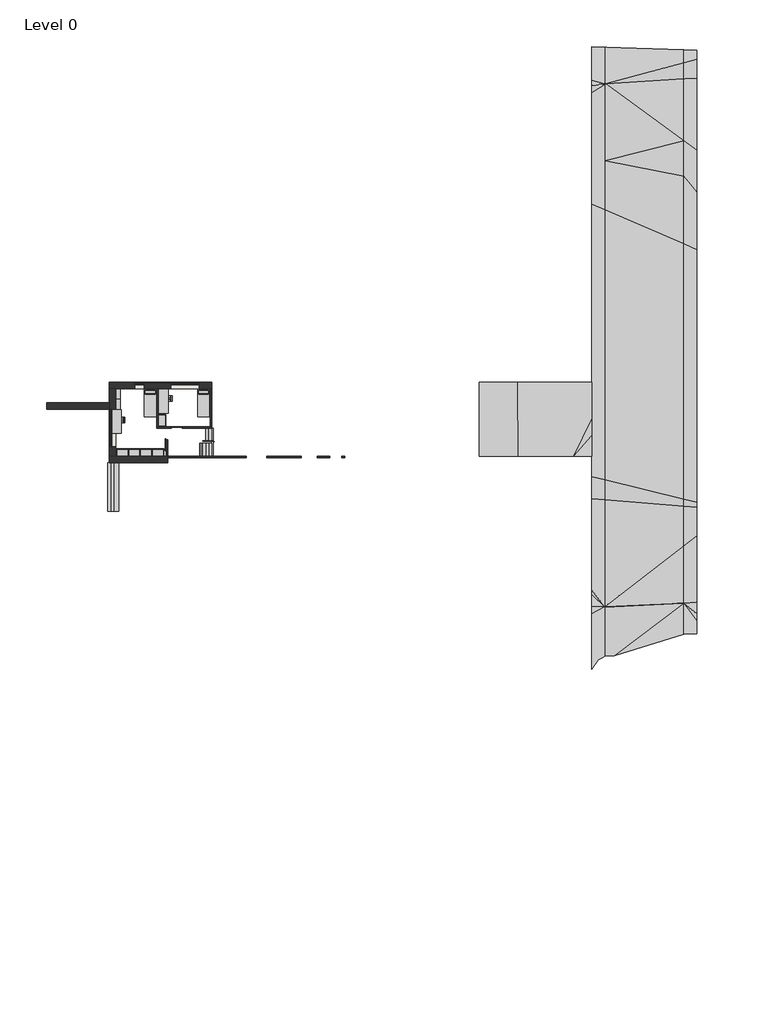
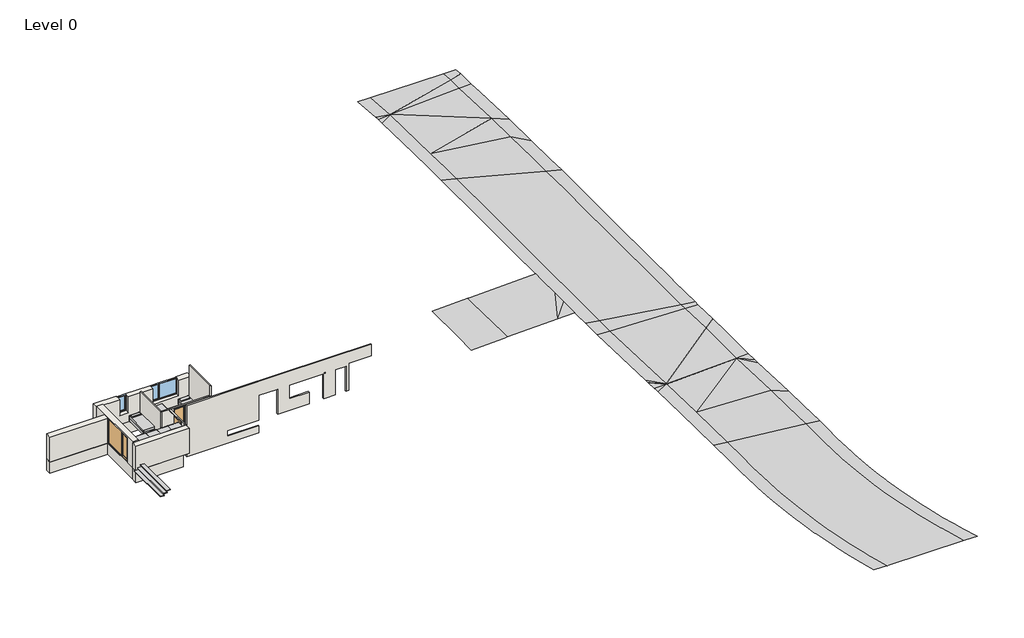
# One storey, incomplete: 14 walls, 13 furniture elements, 3 doors, 3 proxies, 3 stair flights, 2 windows, 1 railing.
"""IFC4 building model written with IfcOpenShell, lengths in millimetres."""

from ifc_helpers import new_model, si_unit, frame, origin, place, context, project, spatial, polyline, outline, extrude, faceted_brep, triangles, transform, mapped, element, save
from components import ext_door_window_assembly_glass_2880x2200_mm_93a1fc79, int_single_flush_900x2200_mm_8e8544e1, int_sliding_door_on_wall_m_09x22_47a3ad10, furniture_56f83323, furniture_1800_x_700mm_2eab36f4, furniture_750_x_300_x_700mm_660817c4, bed_standard_900_x_21005mm_af0b1266, tall_cabinet_double_door_900mm_d8c8d432, railing_900mm_round_profiles_b70d091b, stair_flight_e6f8e67d, single_light_720x1400_mm_b30d6d94, window_assembly_individual_2160x1400_mm_e8ab2868

model = new_model("IFC4")

# Units and contexts
model_context = context("Model", 3, world=origin())
ifc_project = project(units=[si_unit("LENGTHUNIT", "METRE", prefix="MILLI")], contexts=[model_context])

# Site, building, storey
site = spatial("IfcSite", under=ifc_project)
building = spatial("IfcBuilding", under=site)
storey = spatial("IfcBuildingStorey", under=building, Name="Level 0", Elevation=-600.0)

# Proxies
placement = place(None, origin())
element("IfcBuildingElementProxy", 1, Name="Building Element Proxy", at=placement, inside=storey, context=model_context, shape_type="Tessellation", body=[
    triangles([(36800.0002808, -19240.0000305, 669.4712729), (36841.6116943, -21308.3412231, 675.8446484), (36847.346228, -21593.3587097, 676.5660433), (36919.8743591, -22793.7342773, 680.6525671), (36989.3073303, -23942.9083191, 683.5437424), (37113.2113953, -25170.6636108, 687.7205223), (37225.6556946, -26284.8467651, 691.036381), (37383.4948975, -27398.3625183, 695.3462923), (37556.0052979, -28615.3835815, 700.9963835), (37597.8329773, -28843.8975403, 702.2646927), (37970.4497681, -30879.5291016, 711.1172773), (37979.8236145, -30930.749231, 711.3854296), (38296.7438049, -32339.5469604, 720.0681845), (38496.4269653, -33227.195105, 724.1432264), (38660.0983704, -33838.7438232, 727.5312464), (38909.4250122, -34770.3450989, 732.5113203), (39956.7192261, -34806.9172852, 755.7694937), (39678.7827026, -33782.3309875, 750.209586), (39510.699939, -33162.7083435, 746.7268044), (39338.5244019, -32407.4521179, 743.2089231), (38989.7968506, -30877.7571167, 733.6789816), (38974.3024475, -30794.2157043, 733.2371481), (38625.6004761, -28914.137439, 724.9604731), (38562.4206116, -28573.481488, 723.0515779), (38380.5410156, -27307.0122803, 717.1201086), (38229.2758301, -26253.7068054, 713.0003019), (38125.4612366, -25238.254834, 709.948962), (37990.922937, -23922.2839966, 705.4341213), (37936.2030212, -23028.2827515, 703.1695793), (37847.7502808, -21583.0872437, 698.225041), (37843.152887, -21357.4986877, 697.6528376), (37799.999707, -19240.0000305, 691.1160273), (37799.999707, -19155.8237732, 690.8932938), (37799.999707, -17617.4851135, 687.6261967), (37799.999707, -15521.5711853, 675.1737591), (37799.999707, -11075.4983826, 613.4258566), (37799.999707, -6821.2743347, 501.0448165), (37799.999707, -6796.3746918, 500.0000038), (37799.999707, -6782.3900803, 500.0000038), (37799.999707, -6774.6248566, 500.0000038), (37799.999707, 1369.7200275, 206.3798447), (37799.999707, 2888.0641228, 205.5976976), (37799.999707, 4305.7848541, 198.0800969), (37799.999707, 6061.8363876, 198.0800969), (37799.999707, 7522.4908356, 189.7929574), (37799.999707, 9341.4571335, 189.7929574), (37799.999707, 11245.3380157, 181.6761563), (37799.999707, 12936.2057373, 170.7920823), (37799.999707, 18322.8629883, 214.1072618), (37799.999707, 23493.9543274, 187.5491808), (37799.999707, 25115.9506714, 163.3837227), (37799.999707, 27228.5217224, 127.2223308), (37799.999707, 33045.5666565, 0.0), (37799.999707, 33058.8658447, 0.0), (37799.999707, 33084.5340454, 0.0), (37799.999707, 33109.820874, -3.0015763), (37799.999707, 35911.4312622, -215.0441232), (36800.0002808, 35946.3523865, -238.3495866), (36800.0002808, 33373.8745239, -43.6492116), (36800.0002808, 33016.9428223, -1.2834803), (36800.0002808, 32989.4235718, 0.0), (36800.0002808, 32632.8569641, 0.0), (36800.0002808, 32439.4827209, 0.0), (36800.0002808, 27954.2634705, 98.0944394), (36800.0002808, 25676.6234253, 137.0813856), (36800.0002808, 23927.8883057, 163.1350824), (36800.0002808, 18352.7413971, 191.7683274), (36800.0002808, 12545.184256, 145.0686252), (36800.0002808, 11108.9823853, 154.3134007), (36800.0002808, 9491.8502792, 161.2077291), (36800.0002808, 7505.268631, 161.2077291), (36800.0002808, 6264.6071503, 168.2467072), (36800.0002808, 4335.0359756, 168.2467072), (36800.0002808, 3130.8420364, 174.632055), (36800.0002808, 1452.796788, 175.4964827), (36800.0002808, -5525.9638641, 427.0949335), (36800.0002808, -5889.4184235, 428.2519486), (36800.0002808, -6801.134285, 500.0000038), (36800.0002808, -7159.5135727, 500.0000038), (36800.0002808, -7318.6096756, 500.0000038), (36800.0002808, -10590.5210083, 586.4319374), (36800.0002808, -15347.0574188, 652.491568), (36800.0002808, -17589.3252045, 665.8135019), (36800.0002808, -18948.8236176, 668.7008257), (47353.9886353, -35065.2364014, 920.047257), (46948.6412842, -33815.4452454, 911.7909296), (46829.048584, -33386.3621338, 909.3915121), (46689.7640625, -32886.6065918, 906.4997555), (46381.5875244, -31780.8996643, 898.3694378), (46010.5543579, -30196.228949, 888.2806641), (45900.091333, -29724.4298401, 885.6971008), (45839.6717651, -29407.1608337, 884.2656475), (45504.9805664, -27649.6262512, 874.2256353), (45360.2080078, -26667.5303833, 869.5438717), (45219.3375366, -25711.9259216, 865.7265902), (45196.9575073, -25560.1189087, 865.0557009), (45104.8887085, -24682.6701416, 861.9936785), (44976.552356, -23459.5610779, 856.6501093), (44866.1776978, -21702.2032288, 850.5764248), (44844.1557861, -21351.6269531, 849.1722227), (44828.6637085, -20610.7605469, 846.8766506), (44800.0003418, -19240.0000305, 843.3418373), (44800.0003418, -17814.6009888, 840.3145512), (44800.0003418, -16743.1710388, 833.9488787), (44800.0003418, -14470.3400024, 802.3834362), (44800.0003418, -12295.5808868, 744.9342539), (44800.0003418, -7850.5179062, 558.4124994), (44800.0003418, -7315.7953125, 554.9484667), (44800.0003418, -6457.6145554, 501.8563222), (44800.0003418, -6440.0976013, 501.6879458), (44800.0003418, -6407.8513138, 500.0000038), (44800.0003418, -6174.5248581, 500.0000038), (44800.0003418, -5738.4939148, 500.0000038), (44800.0003418, -5058.3575226, 500.0000038), (44800.0003418, -3180.1678047, 500.0000038), (44800.0003418, -1359.7290676, 500.0000038), (44800.0003418, 788.1837215, 422.5633787), (44800.0003418, 1188.6174191, 422.357105), (44800.0003418, 4101.0258408, 406.9137889), (44800.0003418, 4642.4416306, 406.9137889), (44800.0003418, 7643.0485931, 389.8896463), (44800.0003418, 8288.7045319, 389.8896463), (44800.0003418, 12199.8251038, 373.2153371), (44800.0003418, 15673.3572693, 350.8563457), (44800.0003418, 18113.7176147, 370.4797482), (44800.0003418, 20456.4164795, 358.4479245), (44800.0003418, 21191.2437195, 347.5000826), (44800.0003418, 22148.3178589, 331.1175797), (44800.0003418, 24843.7672852, 272.1664541), (44800.0003418, 28019.1362549, 245.6447627), (44800.0003418, 32201.0321594, 59.4666146), (44800.0003418, 33509.6150757, 0.0), (44800.0003418, 33916.8762634, 0.0), (44800.0003418, 34115.1083496, 0.0), (44800.0003418, 34981.1810669, 0.0), (44800.0003418, 35666.9857178, -51.9058252), (43800.0009155, 35701.906842, -75.2112976), (43800.0009155, 34708.179126, 0.0), (43800.0009155, 33472.3033997, 0.0), (43800.0009155, 28751.3148193, 210.1785227), (43800.0009155, 26034.4062378, 232.8709966), (43800.0009155, 22874.0619324, 301.9896883), (43800.0009155, 21751.9164734, 321.1977273), (43800.0009155, 20890.3504578, 334.0338261), (43800.0009155, 18143.5948608, 348.1408138), (43800.0009155, 15282.3346252, 325.1328795), (43800.0009155, 12063.4694733, 345.8526177), (43800.0009155, 8439.0976776, 361.3043999), (43800.0009155, 7625.8258072, 361.3043999), (43800.0009155, 4845.2123932, 377.0803991), (43800.0009155, 4130.2769623, 377.0803991), (43800.0009155, 1431.3954781, 391.3914805), (43800.0009155, 871.2603367, 391.6800167), (43800.0009155, -2133.2856297, 500.0000038), (43800.0009155, -3694.7709869, 500.0000038), (43800.0009155, -6506.7423706, 500.0000038), (43800.0009155, -11513.5379242, 710.0929213), (43800.0009155, -13985.3626282, 775.3894444), (43800.0009155, -16568.6561096, 811.2667603), (43800.0009155, -17786.4422424, 818.5019291), (43800.0009155, -19240.0000305, 821.5890226), (43825.7946899, -20403.1662415, 824.620451), (43850.6396851, -21523.4722778, 828.1224174), (43859.2531128, -21652.7829895, 828.6510189), (44002.4490234, -23802.4541016, 836.2578947), (44073.9516357, -24444.7497803, 839.1529942), (44207.4876709, -25644.3626038, 843.5069435), (44255.1405762, -26072.4667053, 844.8785168), (44362.5479736, -26758.9364319, 847.7568295), (44608.2120483, -28329.0452454, 855.5539553), (44812.050769, -29336.9302368, 861.5731373), (45003.1507324, -30281.8446533, 866.0824551), (45060.970459, -30567.7527832, 867.7008156), (45612.5274902, -32784.1895874, 882.5333405), (45622.2617798, -32817.0271179, 882.7876854), (45807.8318481, -33442.9144958, 886.6568533), (46261.7901855, -34973.9977844, 895.823881), (46280.3564941, -35027.7433411, 896.2040903), (43831.9012939, 33474.3590881, 0.0), (36828.893866, 33008.3945068, 0.0), (44770.7742188, -6429.9511276, 500.0000038), (43831.6175903, -6505.2157196, 500.0000038), (37770.0108398, -6797.8222778, 500.0000038)], [[2, 3, 31], [31, 32, 2], [1, 2, 32], [30, 3, 4], [25, 8, 9], [26, 7, 8], [28, 5, 6], [7, 27, 6], [4, 5, 29], [24, 9, 10], [1, 32, 33], [35, 82, 83], [80, 37, 183], [81, 82, 36], [83, 84, 34], [81, 36, 80], [35, 83, 34], [79, 183, 78], [79, 80, 183], [78, 183, 77], [36, 82, 35], [34, 84, 33], [84, 1, 33], [13, 14, 20], [12, 22, 11], [13, 21, 12], [19, 14, 15], [16, 17, 18], [18, 19, 15], [21, 13, 20], [20, 14, 19], [16, 18, 15], [22, 12, 21], [30, 4, 29], [29, 5, 28], [36, 37, 80], [31, 3, 30], [24, 10, 23], [22, 23, 11], [27, 7, 26], [26, 8, 25], [25, 9, 24], [6, 27, 28], [10, 11, 23], [183, 37, 38], [69, 47, 68], [67, 68, 48], [67, 50, 66], [47, 69, 70], [41, 75, 76], [42, 74, 75], [45, 71, 72], [46, 70, 71], [73, 44, 72], [74, 43, 73], [180, 61, 62], [180, 60, 61], [180, 59, 60], [58, 59, 57], [180, 62, 53], [64, 53, 63], [65, 52, 64], [56, 57, 59], [56, 180, 55], [56, 59, 180], [51, 65, 66], [63, 53, 62], [76, 77, 40], [40, 77, 183], [42, 43, 74], [75, 41, 42], [44, 73, 43], [40, 41, 76], [154, 116, 153], [152, 153, 118], [119, 151, 152], [154, 155, 115], [51, 52, 65], [50, 51, 66], [54, 55, 180], [53, 54, 180], [52, 53, 64], [46, 71, 45], [45, 72, 44], [49, 67, 48], [48, 68, 47], [47, 70, 46], [50, 67, 49], [39, 40, 183], [183, 38, 39], [100, 163, 164], [101, 162, 163], [163, 100, 101], [165, 98, 164], [169, 94, 168], [170, 93, 169], [97, 166, 167], [168, 95, 167], [165, 166, 98], [170, 171, 92], [162, 101, 102], [104, 159, 160], [105, 158, 159], [107, 156, 157], [158, 106, 157], [156, 107, 108], [160, 161, 103], [160, 103, 104], [104, 105, 159], [157, 106, 107], [158, 105, 106], [103, 161, 102], [161, 162, 102], [88, 175, 176], [89, 173, 174], [175, 88, 174], [176, 177, 86], [85, 86, 177], [86, 87, 176], [89, 174, 88], [88, 176, 87], [85, 177, 178], [173, 89, 90], [96, 97, 167], [167, 95, 96], [97, 98, 166], [99, 100, 164], [164, 98, 99], [172, 91, 171], [92, 171, 91], [90, 91, 172], [95, 168, 94], [94, 169, 93], [93, 170, 92], [172, 173, 90], [116, 117, 153], [182, 156, 108], [150, 121, 149], [149, 122, 148], [114, 115, 155], [156, 114, 155], [116, 154, 115], [112, 182, 181], [118, 153, 117], [151, 119, 120], [152, 118, 119], [182, 113, 156], [108, 181, 182], [147, 148, 123], [146, 147, 123], [145, 146, 124], [143, 144, 127], [142, 143, 128], [145, 126, 144], [140, 141, 130], [179, 139, 131], [137, 138, 135], [179, 138, 139], [179, 134, 138], [141, 142, 129], [139, 140, 131], [120, 150, 151], [113, 182, 112], [114, 156, 113], [181, 111, 112], [111, 181, 110], [146, 123, 124], [122, 123, 148], [121, 122, 149], [181, 109, 110], [124, 125, 145], [127, 144, 126], [128, 143, 127], [141, 129, 130], [128, 129, 142], [131, 140, 130], [179, 132, 133], [179, 133, 134], [135, 136, 137], [135, 138, 134], [131, 132, 179], [145, 125, 126], [120, 121, 150], [108, 109, 181]], closed=False),
])
element("IfcBuildingElementProxy", 2, Name="Building Element Proxy", at=placement, inside=storey, context=model_context, shape_type="Tessellation", body=[
    triangles([(37799.999707, -19240.0000305, 691.1160273), (37842.9970825, -21357.4917114, 697.6494221), (37847.4061157, -21574.6040405, 698.1998245), (37936.0518677, -23028.2478699, 703.1662365), (37989.541626, -23905.3594482, 705.383761), (38125.3124084, -25238.2455322, 709.9456919), (38226.1760193, -26228.4246277, 712.9130253), (38380.5038086, -27307.0169312, 717.1192366), (38556.9186218, -28539.9672546, 722.8794954), (38626.0632385, -28914.1699951, 724.9706469), (38973.4792419, -30794.2854675, 733.2190533), (38981.2206299, -30836.1805847, 733.43997), (39338.0779175, -32407.4218872, 743.19904), (39498.3890625, -33113.2741516, 746.4734041), (39679.1873291, -33782.3077332, 750.218597), (39956.068103, -34806.8940308, 755.7550323), (46280.3564941, -35027.7433411, 896.2040903), (46261.7901855, -34973.9977844, 895.823881), (45807.8318481, -33442.9144958, 886.6568533), (45622.2617798, -32817.0271179, 882.7876854), (45612.5274902, -32784.1895874, 882.5333405), (45060.970459, -30567.7527832, 867.7008156), (45003.1507324, -30281.8446533, 866.0824551), (44812.050769, -29336.9302368, 861.5731373), (44608.2120483, -28329.0452454, 855.5539553), (44362.5479736, -26758.9364319, 847.7568295), (44255.1405762, -26072.4667053, 844.8785168), (44207.4876709, -25644.3626038, 843.5069435), (44073.9516357, -24444.7497803, 839.1529942), (44002.4490234, -23802.4541016, 836.2578947), (43859.2531128, -21652.7829895, 828.6510189), (43850.6396851, -21523.4722778, 828.1224174), (43825.7946899, -20403.1662415, 824.620451), (43800.0009155, -19240.0000305, 821.5890226), (43800.0009155, -17786.4422424, 818.5019291), (43800.0009155, -16568.6561096, 811.2667603), (43800.0009155, -13985.3626282, 775.3894444), (43800.0009155, -11513.5379242, 710.0929213), (43800.0009155, -6506.7423706, 500.0000038), (43800.0009155, -3694.7709869, 500.0000038), (43800.0009155, -2133.2856297, 500.0000038), (43800.0009155, 871.2603367, 391.6800167), (43800.0009155, 1431.3954781, 391.3914805), (43800.0009155, 4130.2769623, 377.0803991), (43800.0009155, 4845.2123932, 377.0803991), (43800.0009155, 7625.8258072, 361.3043999), (43800.0009155, 8439.0976776, 361.3043999), (43800.0009155, 12063.4694733, 345.8526177), (43800.0009155, 15282.3346252, 325.1328795), (43800.0009155, 18143.5948608, 348.1408138), (43800.0009155, 20890.3504578, 334.0338261), (43800.0009155, 21751.9164734, 321.1977273), (43800.0009155, 22874.0619324, 301.9896883), (43800.0009155, 26034.4062378, 232.8709966), (43800.0009155, 28751.3148193, 210.1785227), (43800.0009155, 33472.3033997, 0.0), (43800.0009155, 34708.179126, 0.0), (43800.0009155, 35701.906842, -75.2112976), (37799.999707, 35911.4312622, -215.0441232), (37799.999707, 33109.820874, -3.0015763), (37799.999707, 33084.5340454, 0.0), (37799.999707, 33058.8658447, 0.0), (37799.999707, 33045.5666565, 0.0), (37799.999707, 27228.5217224, 127.2223308), (37799.999707, 25115.9506714, 163.3837227), (37799.999707, 23493.9543274, 187.5491808), (37799.999707, 18322.8629883, 214.1072618), (37799.999707, 12936.2057373, 170.7920823), (37799.999707, 11245.3380157, 181.6761563), (37799.999707, 9341.4571335, 189.7929574), (37799.999707, 7522.4908356, 189.7929574), (37799.999707, 6061.8363876, 198.0800969), (37799.999707, 4305.7848541, 198.0800969), (37799.999707, 2888.0641228, 205.5976976), (37799.999707, 1369.7200275, 206.3798447), (37799.999707, -6774.6248566, 500.0000038), (37799.999707, -6782.3900803, 500.0000038), (37799.999707, -6796.3746918, 500.0000038), (37799.999707, -6821.2743347, 501.0448165), (37799.999707, -11075.4983826, 613.4258566), (37799.999707, -15521.5711853, 675.1737591), (37799.999707, -17617.4851135, 687.6261967), (37799.999707, -19155.8237732, 690.8932938), (37873.8440369, 33090.3220642, 0.0)], [[33, 1, 2], [83, 1, 34], [3, 32, 2], [3, 4, 31], [35, 82, 83], [80, 81, 37], [82, 36, 81], [39, 79, 80], [30, 4, 5], [24, 11, 12], [12, 13, 23], [14, 22, 13], [21, 14, 15], [28, 6, 7], [25, 9, 10], [10, 11, 25], [9, 26, 8], [27, 7, 8], [30, 5, 6], [78, 79, 39], [55, 84, 64], [51, 66, 67], [54, 64, 65], [63, 64, 84], [84, 60, 61], [84, 61, 62], [84, 62, 63], [60, 84, 59], [67, 68, 49], [76, 77, 39], [41, 75, 76], [74, 75, 43], [39, 77, 78], [48, 69, 70], [47, 70, 71], [72, 73, 45], [44, 73, 74], [72, 46, 71], [69, 48, 68], [53, 65, 66], [57, 59, 84], [16, 21, 15], [32, 3, 31], [29, 30, 6], [28, 29, 6], [4, 30, 31], [37, 81, 36], [35, 36, 82], [34, 1, 33], [37, 38, 80], [33, 2, 32], [20, 21, 16], [18, 19, 16], [17, 18, 16], [20, 16, 19], [26, 27, 8], [25, 26, 9], [23, 24, 12], [22, 23, 13], [25, 11, 24], [21, 22, 14], [28, 7, 27], [74, 43, 44], [76, 40, 41], [41, 42, 75], [40, 76, 39], [46, 72, 45], [70, 47, 48], [46, 47, 71], [45, 73, 44], [48, 49, 68], [66, 51, 52], [50, 51, 67], [53, 66, 52], [64, 54, 55], [84, 55, 56], [57, 58, 59], [57, 84, 56], [53, 54, 65], [49, 50, 67], [38, 39, 80], [43, 75, 42], [35, 83, 34]], closed=False),
])
element("IfcBuildingElementProxy", 3, Name="Building Element Proxy", at=placement, inside=storey, context=model_context, shape_type="Tessellation", body=[
    triangles([(28199.9996338, 10320.0003113, -109.999999), (28199.9996338, 6685.1878738, -109.999999), (28199.9996338, 4680.0000938, -109.999999), (30916.594281, 4680.0000938, -9.0610056), (31160.4561401, 4680.0000938, 0.0), (35399.9996887, 4680.0000938, 126.4799706), (36800.0002808, 4680.0000938, 168.2467072), (36800.0002808, 6264.6071503, 168.2467072), (36800.0002808, 7505.268631, 161.2077291), (36800.0002808, 9491.8502792, 161.2077291), (36800.0002808, 10320.0003113, 157.6770761), (31293.4410461, 10320.0003113, 3.8013986), (31160.4561401, 10320.0003113, 0.0), (31160.4561401, 7408.14142, 0.0)], [[2, 3, 4], [14, 4, 5], [1, 2, 14], [13, 14, 12], [14, 13, 1], [2, 4, 14], [5, 6, 14], [6, 7, 8], [6, 8, 9], [14, 10, 12], [14, 9, 10], [10, 11, 12], [9, 14, 6]], closed=False),
])

# Doors
ext_door_window_assembly_glass_2880x2200_mm_shape = ext_door_window_assembly_glass_2880x2200_mm_93a1fc79(model_context)
element("IfcDoor", 4, ObjectType="Ext. Door Window Assembly - Glass : 2880x2200 mm", at=placement, inside=storey, context=model_context, shape_type="MappedRepresentation", body=[
    mapped(ext_door_window_assembly_glass_2880x2200_mm_shape, transform((240.0, 6840.0, -600.0), x_axis=(0.0, -1.0, 0.0), y_axis=(1.0, 0.0, 0.0), z_axis=(0.0, 0.0, 1.0))),
])
int_single_flush_900x2200_mm_shape = int_single_flush_900x2200_mm_8e8544e1(model_context)
element("IfcDoor", 5, ObjectType="Int. Single-Flush : 900x2200 mm", at=placement, inside=storey, context=model_context, shape_type="MappedRepresentation", body=[
    mapped(int_single_flush_900x2200_mm_shape, transform((5130.0, 6900.0, -600.0), x_axis=(-1.0, 0.0, 0.0), y_axis=(0.0, -1.0, 0.0), z_axis=(0.0, 0.0, 1.0))),
])
int_sliding_door_on_wall_m_09x22_shape = int_sliding_door_on_wall_m_09x22_47a3ad10(model_context)
element("IfcDoor", 6, ObjectType="Int. Sliding Door on wall : M 09x22", at=placement, inside=storey, context=model_context, shape_type="MappedRepresentation", body=[
    mapped(int_sliding_door_on_wall_m_09x22_shape, transform((4430.0, 6420.0, -600.0), x_axis=(0.0, 1.0, 0.0), y_axis=(-1.0, 0.0, 0.0), z_axis=(0.0, 0.0, 1.0))),
])

# Furniture
furniture_shape = furniture_56f83323(model_context)
element("IfcFurniture", 7, ObjectType="Chair - Allround : Dining Chair Trendy", at=placement, inside=storey, context=model_context, shape_type="MappedRepresentation", body=[
    mapped(furniture_shape, transform((873.7758359, 7450.0, -600.0), x_axis=(0.0, -1.0, 0.0), y_axis=(1.0, 0.0, 0.0), z_axis=(0.0, 0.0, 1.0))),
])
element("IfcFurniture", 8, ObjectType="Chair - Allround : Dining Chair Trendy", at=placement, inside=storey, context=model_context, shape_type="MappedRepresentation", body=[
    mapped(furniture_shape, transform((4480.0, 9090.0, -600.0), x_axis=(0.0, -1.0, 0.0), y_axis=(1.0, 0.0, 0.0), z_axis=(0.0, 0.0, 1.0))),
])
furniture_1800_x_700mm_shape = furniture_1800_x_700mm_2eab36f4(model_context)
element("IfcFurniture", 9, ObjectType="Table - Allround : 1800 x 700mm", at=placement, inside=storey, context=model_context, shape_type="MappedRepresentation", body=[
    mapped(furniture_1800_x_700mm_shape, transform((565.0, 7330.0, -600.0), x_axis=(0.0, 1.0, 0.0), y_axis=(-1.0, 0.0, 0.0), z_axis=(0.0, 0.0, 1.0))),
])
element("IfcFurniture", 10, ObjectType="Table - Allround : 1800 x 700mm", at=placement, inside=storey, context=model_context, shape_type="MappedRepresentation", body=[
    mapped(furniture_1800_x_700mm_shape, transform((4120.0, 8890.0, -600.0), x_axis=(0.0, 1.0, 0.0), y_axis=(-1.0, 0.0, 0.0), z_axis=(0.0, 0.0, 1.0))),
])
furniture_750_x_300_x_700mm_shape = furniture_750_x_300_x_700mm_660817c4(model_context)
element("IfcFurniture", 11, ObjectType="Shelving (Floor) - Allround : 750 x 300 x 700mm", at=placement, inside=storey, context=model_context, shape_type="MappedRepresentation", body=[
    mapped(furniture_750_x_300_x_700mm_shape, transform((984.8, 9415.0, -600.0), x_axis=(0.0, -1.0, 0.0), y_axis=(1.0, 0.0, 0.0), z_axis=(0.0, 0.0, 1.0))),
])
element("IfcFurniture", 12, ObjectType="Shelving (Floor) - Allround : 750 x 300 x 700mm", at=placement, inside=storey, context=model_context, shape_type="MappedRepresentation", body=[
    mapped(furniture_750_x_300_x_700mm_shape, transform((984.8, 8665.0, -600.0), x_axis=(0.0, -1.0, 0.0), y_axis=(1.0, 0.0, 0.0), z_axis=(0.0, 0.0, 1.0))),
])
bed_standard_900_x_21005mm_shape = bed_standard_900_x_21005mm_af0b1266(model_context)
element("IfcFurniture", 13, ObjectType="Bed - Standard : 900 x 21005mm", at=placement, inside=storey, context=model_context, shape_type="MappedRepresentation", body=[
    mapped(bed_standard_900_x_21005mm_shape, transform((6908.5114754, 8783.095082, -600.0), x_axis=(1.0, 0.0, 0.0), y_axis=(0.0, 1.0, 0.0), z_axis=(0.0, 0.0, 1.0))),
])
element("IfcFurniture", 14, ObjectType="Bed - Standard : 900 x 21005mm", at=placement, inside=storey, context=model_context, shape_type="MappedRepresentation", body=[
    mapped(bed_standard_900_x_21005mm_shape, transform((2828.5114754, 8783.095082, -600.0), x_axis=(1.0, 0.0, 0.0), y_axis=(0.0, 1.0, 0.0), z_axis=(0.0, 0.0, 1.0))),
])
tall_cabinet_double_door_900mm_shape = tall_cabinet_double_door_900mm_d8c8d432(model_context)
element("IfcFurniture", 15, ObjectType="Tall Cabinet - Double door : 900mm", at=placement, inside=storey, context=model_context, shape_type="MappedRepresentation", body=[
    mapped(tall_cabinet_double_door_900mm_shape, transform((1034.7003264, 4680.0, -600.0), x_axis=(-0.9999999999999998, 0.0, 0.0), y_axis=(0.0, -0.9999999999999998, 0.0), z_axis=(0.0, 0.0, 1.0))),
])
element("IfcFurniture", 16, ObjectType="Tall Cabinet - Double door : 900mm", at=placement, inside=storey, context=model_context, shape_type="MappedRepresentation", body=[
    mapped(tall_cabinet_double_door_900mm_shape, transform((3720.0, 7365.2996736, -600.0), x_axis=(0.0, 1.0000000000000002, 0.0), y_axis=(-1.0000000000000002, 0.0, 0.0), z_axis=(0.0, 0.0, 1.0))),
])
element("IfcFurniture", 17, ObjectType="Tall Cabinet - Double door : 900mm", at=placement, inside=storey, context=model_context, shape_type="MappedRepresentation", body=[
    mapped(tall_cabinet_double_door_900mm_shape, transform((1934.7003264, 4680.0, -600.0), x_axis=(-0.9999999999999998, 0.0, 0.0), y_axis=(0.0, -0.9999999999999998, 0.0), z_axis=(0.0, 0.0, 1.0))),
])
element("IfcFurniture", 18, ObjectType="Tall Cabinet - Double door : 900mm", at=placement, inside=storey, context=model_context, shape_type="MappedRepresentation", body=[
    mapped(tall_cabinet_double_door_900mm_shape, transform((2834.7003264, 4680.0, -600.0), x_axis=(-0.9999999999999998, 0.0, 0.0), y_axis=(0.0, -0.9999999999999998, 0.0), z_axis=(0.0, 0.0, 1.0))),
])
element("IfcFurniture", 19, ObjectType="Tall Cabinet - Double door : 900mm", at=placement, inside=storey, context=model_context, shape_type="MappedRepresentation", body=[
    mapped(tall_cabinet_double_door_900mm_shape, transform((3734.7003264, 4680.0, -600.0), x_axis=(-0.9999999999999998, 0.0, 0.0), y_axis=(0.0, -0.9999999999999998, 0.0), z_axis=(0.0, 0.0, 1.0))),
])

# Railing
railing_900mm_round_profiles_shape = railing_900mm_round_profiles_b70d091b(model_context)
element("IfcRailing", 20, ObjectType="900mm round profiles", at=placement, inside=storey, context=model_context, shape_type="MappedRepresentation", body=[
    mapped(railing_900mm_round_profiles_shape, transform((0.0, 0.0, 0.0), x_axis=(1.0, 0.0, 0.0), y_axis=(0.0, 1.0, 0.0), z_axis=(0.0, 0.0, 1.0))),
])

# Stair flights
stair_flight_shape = stair_flight_e6f8e67d(model_context)
element("IfcStairFlight", 21, ObjectType="50 mm Tread 100 mm Nosing 15 mm Riser", at=placement, inside=storey, context=model_context, shape_type="MappedRepresentation", body=[
    mapped(stair_flight_shape, transform((0.0, 0.0, 0.0), x_axis=(1.0, 0.0, 0.0), y_axis=(0.0, 1.0, 0.0), z_axis=(0.0, 0.0, 1.0))),
])
element("IfcStairFlight", 22, ObjectType="No Nosing", at=placement, inside=storey, context=model_context, shape_type="Brep", body=[
    faceted_brep([(7570.0, 6840.0, -400.0), (7340.0, 6840.0, -400.0), (7340.0, 5840.0, -400.0), (7570.0, 5840.0, -400.0), (7570.0, 6840.0, -598.7793564), (7568.5962598, 6840.0, -600.0), (7340.0, 6840.0, -600.0), (7340.0, 5840.0, -600.0), (7568.5962598, 5840.0, -600.0), (7570.0, 5840.0, -598.7793564), (7800.0, 6840.0, -398.7793564), (7800.0, 5840.0, -398.7793564), (7800.0, 6840.0, -200.0), (7570.0, 6840.0, -200.0), (7570.0, 5840.0, -200.0), (7800.0, 5840.0, -200.0)], [[[0, 1, 2, 3]], [[1, 0, 4, 5, 6]], [[2, 1, 6, 7]], [[3, 2, 7, 8, 9]], [[7, 6, 5, 8]], [[8, 5, 4, 10, 11, 9]], [[12, 13, 14, 15]], [[13, 12, 10, 4, 0]], [[0, 3, 14, 13]], [[15, 14, 3, 9, 11]], [[12, 15, 11, 10]]]),
])
element("IfcStairFlight", 23, ObjectType="No Nosing", at=placement, inside=storey, context=model_context, shape_type="Brep", body=[
    faceted_brep([(7570.0, 4680.0, 200.0), (7800.0, 4680.0, 200.0), (7800.0, 5680.0, 200.0), (7570.0, 5680.0, 200.0), (7570.0, 4680.0, 1.2206436), (7800.0, 4680.0, -198.7793564), (7800.0, 5680.0, -198.7793564), (7570.0, 5680.0, 1.2206436), (7340.0, 4680.0, 400.0), (7570.0, 4680.0, 400.0), (7570.0, 5680.0, 400.0), (7340.0, 5680.0, 400.0), (7340.0, 4680.0, 201.2206436), (7340.0, 5680.0, 201.2206436), (7110.0, 4680.0, 600.0), (7340.0, 4680.0, 600.0), (7340.0, 5680.0, 600.0), (7110.0, 5680.0, 600.0), (7110.0, 4680.0, 401.2206436), (7110.0, 5680.0, 401.2206436), (6880.0, 4680.0, 800.0), (7110.0, 4680.0, 800.0), (7110.0, 5680.0, 800.0), (6880.0, 5680.0, 800.0), (6880.0, 4680.0, 601.2206436), (6880.0, 5680.0, 601.2206436), (6650.0, 4680.0, 1000.0), (6880.0, 4680.0, 1000.0), (6880.0, 5680.0, 1000.0), (6650.0, 5680.0, 1000.0), (6650.0, 4680.0, 801.2206436), (6650.0, 5680.0, 801.2206436), (6420.0, 4680.0, 1200.0), (6650.0, 4680.0, 1200.0), (6650.0, 5680.0, 1200.0), (6420.0, 5680.0, 1200.0), (6420.0, 4680.0, 1001.2206436), (6420.0, 5680.0, 1001.2206436), (6190.0, 4680.0, 1400.0), (6420.0, 4680.0, 1400.0), (6420.0, 5680.0, 1400.0), (6190.0, 5680.0, 1400.0), (6190.0, 4680.0, 1201.2206436), (6190.0, 5680.0, 1201.2206436), (5960.0, 4680.0, 1600.0), (6190.0, 4680.0, 1600.0), (6190.0, 5680.0, 1600.0), (5960.0, 5680.0, 1600.0), (5960.0, 4680.0, 1401.2206436), (5960.0, 5680.0, 1401.2206436), (5730.0, 4680.0, 1601.2206436), (5730.0, 5680.0, 1601.2206436), (5730.0, 4680.0, 1800.0), (5960.0, 4680.0, 1800.0), (5960.0, 5680.0, 1800.0), (5730.0, 5680.0, 1800.0)], [[[0, 1, 2, 3]], [[1, 0, 4, 5]], [[2, 1, 5, 6]], [[3, 2, 6, 7]], [[8, 9, 10, 11]], [[9, 8, 12, 4, 0]], [[0, 3, 10, 9]], [[11, 10, 3, 7, 13]], [[14, 15, 16, 17]], [[15, 14, 18, 12, 8]], [[8, 11, 16, 15]], [[17, 16, 11, 13, 19]], [[20, 21, 22, 23]], [[21, 20, 24, 18, 14]], [[14, 17, 22, 21]], [[23, 22, 17, 19, 25]], [[26, 27, 28, 29]], [[27, 26, 30, 24, 20]], [[20, 23, 28, 27]], [[29, 28, 23, 25, 31]], [[32, 33, 34, 35]], [[33, 32, 36, 30, 26]], [[26, 29, 34, 33]], [[35, 34, 29, 31, 37]], [[38, 39, 40, 41]], [[39, 38, 42, 36, 32]], [[32, 35, 40, 39]], [[41, 40, 35, 37, 43]], [[44, 45, 46, 47]], [[45, 44, 48, 42, 38]], [[38, 41, 46, 45]], [[47, 46, 41, 43, 49]], [[5, 4, 12, 18, 24, 30, 36, 42, 48, 50, 51, 49, 43, 37, 31, 25, 19, 13, 7, 6]], [[52, 53, 54, 55]], [[53, 52, 50, 48, 44]], [[44, 47, 54, 53]], [[55, 54, 47, 49, 51]], [[52, 55, 51, 50]]]),
])

# Walls
element("IfcWall", 24, ObjectType="Foundation - 480mm Concrete", at=placement, inside=storey, context=model_context, shape_type="Brep", body=[
    faceted_brep([(3960.0, 4680.0, -1600.0), (480.0, 4680.0, -1600.0), (0.0, 4680.0, -1600.0), (0.0, 4680.0, -600.0), (480.0, 4680.0, -600.0), (3960.0, 4680.0, -600.0), (3960.0, 4680.0, -1000.0), (3960.0, 4200.0, -1600.0), (3960.0, 4200.0, -600.0), (0.0, 4200.0, -600.0), (0.0, 4200.0, -1600.0)], [[[0, 1, 2, 3, 4, 5, 6]], [[7, 8, 9, 10]], [[2, 1, 0, 7, 10]], [[5, 4, 3, 9, 8]], [[3, 2, 10, 9]], [[0, 6, 5, 8, 7]]]),
])
element("IfcWall", 25, ObjectType="Foundation - 480mm Concrete", at=placement, inside=storey, context=model_context, shape_type="Brep", body=[
    faceted_brep([(480.0, 4680.0, -1600.0), (480.0, 9840.0, -1600.0), (480.0, 9840.0, -1100.0), (480.0, 9840.0, -600.0), (480.0, 8280.0, -600.0), (480.0, 8280.0, -1100.0), (480.0, 5400.0, -1100.0), (480.0, 5400.0, -600.0), (480.0, 4680.0, -600.0), (480.0, 4680.0, -1100.0), (0.0, 9840.0, -1600.0), (0.0, 8760.0, -1600.0), (0.0, 8280.0, -1600.0), (0.0, 4680.0, -1600.0), (0.0, 4680.0, -600.0), (0.0, 8280.0, -600.0), (0.0, 8760.0, -600.0), (0.0, 9840.0, -600.0), (165.0, 5400.0, -600.0), (165.0, 8280.0, -600.0), (165.0, 5400.0, -1100.0), (165.0, 8280.0, -1100.0)], [[[0, 1, 2, 3, 4, 5, 6, 7, 8, 9]], [[10, 11, 12, 13, 14, 15, 16, 17]], [[1, 0, 13, 12, 11, 10]], [[17, 16, 15, 14, 8, 7, 18, 19, 4, 3]], [[13, 0, 9, 8, 14]], [[20, 6, 5, 21]], [[6, 20, 18, 7]], [[20, 21, 19, 18]], [[21, 5, 4, 19]], [[1, 10, 17, 3, 2]]]),
])
element("IfcWall", 26, ObjectType="Foundation - 480mm Concrete", at=placement, inside=storey, context=model_context, shape_type="Brep", body=[
    faceted_brep([(0.0, 9840.0, -1600.0), (480.0, 9840.0, -1600.0), (7800.0, 9840.0, -1600.0), (7800.0, 9840.0, -1000.0), (7800.0, 9840.0, -600.0), (480.0, 9840.0, -600.0), (0.0, 9840.0, -600.0), (0.0, 10320.0, -1600.0), (0.0, 10320.0, -600.0), (7800.0, 10320.0, -600.0), (7800.0, 10320.0, -1000.0), (7800.0, 10320.0, -1600.0)], [[[0, 1, 2, 3, 4, 5, 6]], [[7, 8, 9, 10, 11]], [[2, 1, 0, 7, 11]], [[4, 3, 2, 11, 10, 9]], [[6, 5, 4, 9, 8]], [[0, 6, 8, 7]]]),
])
element("IfcWall", 27, ObjectType="Foundation - 480mm Concrete", at=placement, inside=storey, context=model_context, shape_type="SweptSolid", body=[
    extrude(outline(polyline([(0.0, 8280.0), (-4800.0, 8280.0), (-4800.0, 8760.0), (0.0, 8760.0), (0.0, 8280.0)])), frame((0.0, 0.0, -1600.0), z_axis=(0.0, 0.0, 1.0), x_axis=(1.0, 0.0, 0.0)), (0.0, 0.0, 1.0), 1000.0),
])
element("IfcWall", 28, ObjectType="Generic - 120mm (Interior)", at=placement, inside=storey, context=model_context, shape_type="Brep", body=[
    faceted_brep([(3600.0, 9840.0, -600.0), (3600.0, 6840.0, -600.0), (3600.0, 6840.0, 1700.0), (3600.0, 9840.0, 1700.0), (3720.0, 9840.0, -600.0), (3720.0, 9840.0, 1700.0), (3720.0, 6960.0, 1700.0), (3720.0, 6840.0, 1700.0), (3720.0, 6840.0, -600.0), (3720.0, 6960.0, -600.0)], [[[0, 1, 2, 3]], [[4, 5, 6, 7, 8, 9]], [[1, 0, 4, 9, 8]], [[0, 3, 5, 4]], [[2, 1, 8, 7]], [[3, 2, 7, 6, 5]]]),
])
element("IfcWall", 29, ObjectType="Generic - 120mm (Interior)", at=placement, inside=storey, context=model_context, shape_type="Brep", body=[
    faceted_brep([(7800.0, 6840.0, -600.0), (7800.0, 6840.0, 0.0), (7800.0, 6840.0, 1700.0), (7680.0, 6840.0, 1700.0), (4440.0, 6840.0, 1700.0), (4320.0, 6840.0, 1700.0), (3720.0, 6840.0, 1700.0), (3720.0, 6840.0, -600.0), (4680.0, 6840.0, -600.0), (4680.0, 6840.0, 1600.0), (5580.0, 6840.0, 1600.0), (5580.0, 6840.0, -600.0), (7800.0, 6960.0, 1700.0), (7800.0, 6960.0, 0.0), (7800.0, 6960.0, -600.0), (7680.0, 6960.0, -600.0), (5580.0, 6960.0, -600.0), (5580.0, 6960.0, 1600.0), (4680.0, 6960.0, 1600.0), (4680.0, 6960.0, -600.0), (3720.0, 6960.0, -600.0), (3720.0, 6960.0, 1700.0), (7680.0, 6960.0, 1700.0)], [[[0, 1, 2, 3, 4, 5, 6, 7, 8, 9, 10, 11]], [[12, 13, 14, 15, 16, 17, 18, 19, 20, 21, 22]], [[14, 0, 11, 16, 15]], [[7, 20, 19, 8]], [[2, 1, 0, 14, 13, 12]], [[7, 6, 21, 20]], [[18, 9, 8, 19]], [[9, 18, 17, 10]], [[10, 17, 16, 11]], [[2, 12, 22, 3]], [[21, 6, 5, 4, 3, 22]]]),
])
element("IfcWall", 30, ObjectType="Generic - 120mm (Interior)", at=placement, inside=storey, context=model_context, shape_type="Brep", body=[
    faceted_brep([(4440.0, 4680.0, 1700.0), (4440.0, 4680.0, 1600.0), (4440.0, 4680.0, -600.0), (4440.0, 5940.0, -600.0), (4440.0, 5940.0, 1600.0), (4440.0, 6840.0, 1600.0), (4440.0, 6840.0, 1700.0), (4320.0, 4680.0, -600.0), (4320.0, 4680.0, 1700.0), (4320.0, 6840.0, 1700.0), (4320.0, 6840.0, 1600.0), (4320.0, 5940.0, 1600.0), (4320.0, 5940.0, -600.0)], [[[0, 1, 2, 3, 4, 5, 6]], [[7, 8, 9, 10, 11, 12]], [[2, 7, 12, 3]], [[2, 1, 0, 8, 7]], [[9, 6, 5, 10]], [[4, 11, 10, 5]], [[11, 4, 3, 12]], [[0, 6, 9, 8]]]),
])
element("IfcWall", 31, ObjectType="Generic - 120mm (Interior)", at=placement, inside=storey, context=model_context, shape_type="Brep", body=[
    faceted_brep([(7800.0, 6960.0, 1700.0), (7800.0, 6960.0, -600.0), (7800.0, 9840.0, -600.0), (7800.0, 9840.0, 2600.0), (7800.0, 6840.0, 2600.0), (7800.0, 6840.0, 2300.0), (7800.0, 6840.0, 1700.0), (7680.0, 6960.0, -600.0), (7680.0, 6960.0, 1700.0), (7680.0, 6840.0, 1700.0), (7680.0, 6840.0, 2000.0), (7680.0, 6840.0, 2600.0), (7680.0, 9840.0, 2600.0), (7680.0, 9840.0, -600.0)], [[[0, 1, 2, 3, 4, 5, 6]], [[7, 8, 9, 10, 11, 12, 13]], [[2, 1, 7, 13]], [[3, 2, 13, 12]], [[4, 3, 12, 11]], [[6, 9, 8, 0]], [[0, 8, 7, 1]], [[4, 11, 10, 9, 6, 5]]]),
])
element("IfcWall", 32, ObjectType="Generic - 120mm (Interior)", at=placement, inside=storey, context=model_context, shape_type="Brep", body=[
    faceted_brep([(19800.0, 4560.0, 3400.0), (12360.0, 4560.0, 3400.0), (4440.0, 4560.0, 3400.0), (4440.0, 4560.0, 0.0), (4440.0, 4560.0, -500.0), (4440.0, 4560.0, -1100.0), (10440.0, 4560.0, -1100.0), (10440.0, 4560.0, -500.0), (7800.0, 4560.0, -500.0), (7800.0, 4560.0, 0.0), (10440.0, 4560.0, 0.0), (10440.0, 4560.0, 2200.0), (11880.0, 4560.0, 2200.0), (12000.0, 4560.0, 2200.0), (12000.0, 4560.0, 0.0), (14640.0, 4560.0, 0.0), (14640.0, 4560.0, 1000.0), (12960.0, 4560.0, 1000.0), (12960.0, 4560.0, 2200.0), (15840.0, 4560.0, 2200.0), (15840.0, 4560.0, 2300.0), (15960.0, 4560.0, 2300.0), (15960.0, 4560.0, 2200.0), (15840.0, 4560.0, 0.0), (15960.0, 4560.0, 0.0), (16800.0, 4560.0, 0.0), (16800.0, 4560.0, 2200.0), (17700.0, 4560.0, 2200.0), (17700.0, 4560.0, 0.0), (17940.0, 4560.0, 0.0), (17940.0, 4560.0, 2400.0), (19800.0, 4560.0, 2400.0), (19800.0, 4560.0, 3087.1992832), (19800.0, 4560.0, 3341.878457), (4440.0, 4680.0, 3400.0), (12360.0, 4680.0, 3400.0), (19800.0, 4680.0, 3400.0), (19800.0, 4680.0, 3253.1178387), (19800.0, 4680.0, 2400.0), (17940.0, 4680.0, 2400.0), (17940.0, 4680.0, 2300.0), (17940.0, 4680.0, 0.0), (17820.0, 4680.0, 0.0), (17700.0, 4680.0, 0.0), (17700.0, 4680.0, 2200.0), (16800.0, 4680.0, 2200.0), (16800.0, 4680.0, 0.0), (16680.0, 4680.0, 0.0), (16560.0, 4680.0, 0.0), (15840.0, 4680.0, 0.0), (15840.0, 4680.0, 2200.0), (15960.0, 4680.0, 2200.0), (15960.0, 4680.0, 2300.0), (15840.0, 4680.0, 2300.0), (12960.0, 4680.0, 2200.0), (12960.0, 4680.0, 1000.0), (14640.0, 4680.0, 1000.0), (14640.0, 4680.0, 0.0), (12000.0, 4680.0, 0.0), (12000.0, 4680.0, 2200.0), (11880.0, 4680.0, 2200.0), (10440.0, 4680.0, 2200.0), (10440.0, 4680.0, 0.0), (7800.0, 4680.0, 0.0), (7800.0, 4680.0, -500.0), (7920.0, 4680.0, -500.0), (10440.0, 4680.0, -500.0), (10440.0, 4680.0, -1100.0), (7920.0, 4680.0, -1100.0), (7800.0, 4680.0, -1100.0), (4440.0, 4680.0, -1100.0), (4440.0, 4680.0, -600.0), (4440.0, 4680.0, 1600.0)], [[[0, 1, 2, 3, 4, 5, 6, 7, 8, 9, 10, 11, 12, 13, 14, 15, 16, 17, 18, 19, 20, 21, 22, 19, 23, 24, 25, 26, 27, 28, 29, 30, 31, 32, 33]], [[34, 35, 36, 37, 38, 39, 40, 41, 42, 43, 44, 45, 46, 47, 48, 49, 50, 51, 52, 53, 50, 54, 55, 56, 57, 58, 59, 60, 61, 62, 63, 64, 65, 66, 67, 68, 69, 70, 71, 72]], [[31, 30, 39, 38]], [[45, 26, 25, 46]], [[26, 45, 44, 27]], [[27, 44, 43, 28]], [[39, 30, 29, 41, 40]], [[22, 21, 52, 51]], [[50, 53, 20, 19]], [[51, 50, 19, 22]], [[0, 33, 32, 31, 38, 37, 36]], [[2, 1, 0, 36, 35, 34]], [[34, 72, 71, 70, 5, 4, 3, 2]], [[6, 5, 70, 69, 68, 67]], [[6, 67, 66, 7]], [[61, 11, 10, 62]], [[13, 12, 11, 61, 60, 59]], [[15, 14, 58, 57]], [[16, 15, 57, 56]], [[17, 16, 56, 55]], [[18, 17, 55, 54]], [[19, 18, 54, 50]], [[41, 29, 28, 43, 42]], [[49, 48, 47, 46, 25, 24, 23]], [[14, 13, 59, 58]], [[23, 19, 50, 49]], [[52, 21, 20, 53]], [[64, 8, 7, 66, 65]], [[9, 63, 62, 10]], [[8, 64, 63, 9]]]),
])
element("IfcWall", 33, ObjectType="Generic - 120mm (Interior)", at=placement, inside=storey, context=model_context, shape_type="SweptSolid", body=[
    extrude(outline(polyline([(7800.0, 4680.0), (7800.0, 6840.0), (7920.0, 6840.0), (7920.0, 4680.0), (7800.0, 4680.0)])), frame((0.0, 0.0, -1100.0), z_axis=(0.0, 0.0, 1.0), x_axis=(1.0, 0.0, 0.0)), (0.0, 0.0, 1.0), 600.0),
])
element("IfcWall", 34, ObjectType="Generic - 480mm (Exterior)", at=placement, inside=storey, context=model_context, shape_type="Brep", body=[
    faceted_brep([(0.0, 9840.0, -600.0), (480.0, 9840.0, -600.0), (3600.0, 9840.0, -600.0), (3720.0, 9840.0, -600.0), (7800.0, 9840.0, -600.0), (7800.0, 9840.0, 0.0), (7800.0, 9840.0, 1600.0), (7680.0, 9840.0, 1600.0), (6840.0, 9840.0, 1600.0), (6840.0, 9840.0, 200.0), (4680.0, 9840.0, 200.0), (4680.0, 9840.0, 1600.0), (2640.0, 9840.0, 1600.0), (2640.0, 9840.0, 200.0), (1920.0, 9840.0, 200.0), (1920.0, 9840.0, 1600.0), (0.0, 9840.0, 1600.0), (7800.0, 10320.0, -600.0), (0.0, 10320.0, -600.0), (0.0, 10320.0, 1600.0), (1920.0, 10320.0, 1600.0), (1920.0, 10320.0, 200.0), (6840.0, 10320.0, 200.0), (6840.0, 10320.0, 1600.0), (7680.0, 10320.0, 1600.0), (7800.0, 10320.0, 1600.0), (7800.0, 10320.0, 0.0), (4680.0, 10270.0, 1600.0), (2640.0, 10270.0, 1600.0), (4680.0, 10270.0, 200.0), (2640.0, 10270.0, 200.0)], [[[0, 1, 2, 3, 4, 5, 6, 7, 8, 9, 10, 11, 12, 13, 14, 15, 16]], [[17, 18, 19, 20, 21, 22, 23, 24, 25, 26]], [[4, 3, 2, 1, 0, 18, 17]], [[6, 5, 4, 17, 26, 25]], [[15, 20, 19, 16]], [[6, 25, 24, 23, 8, 7]], [[12, 11, 27, 28]], [[22, 9, 8, 23]], [[11, 10, 29, 27]], [[9, 22, 21, 14, 13, 30, 29, 10]], [[13, 12, 28, 30]], [[21, 20, 15, 14]], [[0, 16, 19, 18]], [[29, 30, 28, 27]]]),
])
element("IfcWall", 35, ObjectType="Generic - 480mm (Exterior)", at=placement, inside=storey, context=model_context, shape_type="Brep", body=[
    faceted_brep([(4440.0, 4680.0, -600.0), (4320.0, 4680.0, -600.0), (480.0, 4680.0, -600.0), (0.0, 4680.0, -600.0), (0.0, 4680.0, 1600.0), (4440.0, 4680.0, 1600.0), (4440.0, 4200.0, -600.0), (4440.0, 4200.0, 1600.0), (0.0, 4200.0, 1600.0), (0.0, 4200.0, -600.0)], [[[0, 1, 2, 3, 4, 5]], [[6, 7, 8, 9]], [[3, 2, 1, 0, 6, 9]], [[5, 4, 8, 7]], [[0, 5, 7, 6]], [[4, 3, 9, 8]]]),
])
element("IfcWall", 36, ObjectType="Generic - 480mm (Exterior)", at=placement, inside=storey, context=model_context, shape_type="Brep", body=[
    faceted_brep([(480.0, 9840.0, 1700.0), (480.0, 4680.0, 1700.0), (480.0, 4680.0, -600.0), (480.0, 5400.0, -600.0), (480.0, 5400.0, 1600.0), (480.0, 8280.0, 1600.0), (480.0, 8280.0, -600.0), (480.0, 9840.0, -600.0), (0.0, 4680.0, 1700.0), (0.0, 9840.0, 1700.0), (0.0, 9840.0, 1600.0), (0.0, 9840.0, -600.0), (0.0, 8760.0, -600.0), (0.0, 8280.0, -600.0), (0.0, 8280.0, 1600.0), (0.0, 5400.0, 1600.0), (0.0, 5400.0, -600.0), (0.0, 4680.0, -600.0), (0.0, 4680.0, 1600.0)], [[[0, 1, 2, 3, 4, 5, 6, 7]], [[8, 9, 10, 11, 12, 13, 14, 15, 16, 17, 18]], [[15, 4, 3, 16]], [[4, 15, 14, 5]], [[5, 14, 13, 6]], [[2, 17, 16, 3]], [[11, 7, 6, 13, 12]], [[1, 0, 9, 8]], [[17, 2, 1, 8, 18]], [[7, 11, 10, 9, 0]]]),
])
element("IfcWall", 37, ObjectType="Generic - 480mm (Exterior)", at=placement, inside=storey, context=model_context, shape_type="SweptSolid", body=[
    extrude(outline(polyline([(-4800.0, 8760.0), (0.0, 8760.0), (0.0, 8280.0), (-4800.0, 8280.0), (-4800.0, 8760.0)])), frame((0.0, 0.0, -600.0), z_axis=(0.0, 0.0, 1.0), x_axis=(1.0, 0.0, 0.0)), (0.0, 0.0, 1.0), 2200.0),
])

# Windows
single_light_720x1400_mm_shape = single_light_720x1400_mm_b30d6d94(model_context)
element("IfcWindow", 38, ObjectType="Single-Light : 720x1400 mm", at=placement, inside=storey, context=model_context, shape_type="MappedRepresentation", body=[
    mapped(single_light_720x1400_mm_shape, transform((2280.0, 10080.0, -600.0), x_axis=(-1.0, 0.0, 0.0), y_axis=(0.0, -1.0, 0.0), z_axis=(0.0, 0.0, 1.0))),
])
window_assembly_individual_2160x1400_mm_shape = window_assembly_individual_2160x1400_mm_e8ab2868(model_context)
element("IfcWindow", 39, ObjectType="Window Assembly Individual : 2160x1400 mm", at=placement, inside=storey, context=model_context, shape_type="MappedRepresentation", body=[
    mapped(window_assembly_individual_2160x1400_mm_shape, transform((5760.0, 10080.0, -600.0), x_axis=(-1.0, 0.0, 0.0), y_axis=(0.0, -1.0, 0.0), z_axis=(0.0, 0.0, 1.0))),
])

save(model, "model.ifc")
